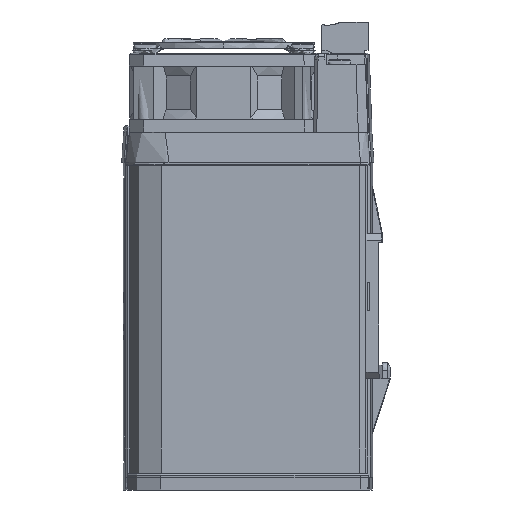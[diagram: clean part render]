
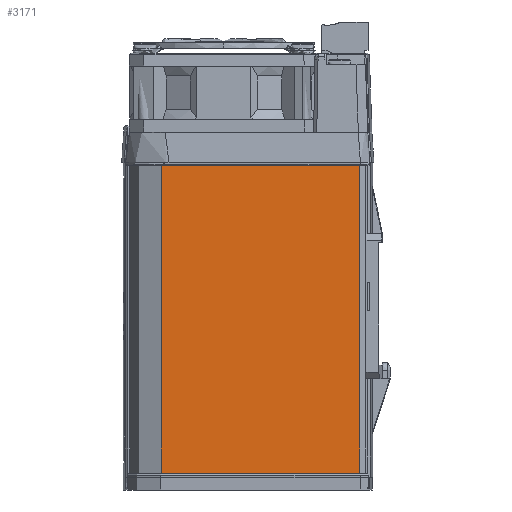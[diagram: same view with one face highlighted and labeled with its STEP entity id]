
A CAD part, left-side view. The second image highlights one B-rep face of the part: STEP entity #3171.
In plain terms, the highlighted planar face has unit normal (-1, 0, 0) as drawn and (0, 1, 0) by its records, which use the part's own axes.
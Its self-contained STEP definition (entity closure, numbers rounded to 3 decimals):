
#3171=ADVANCED_FACE('',(#4479),#22754,.T.);
#4479=FACE_OUTER_BOUND('',#5882,.T.);
#5882=EDGE_LOOP('',(#12867,#12868,#12869,#12870));
#12867=ORIENTED_EDGE('',*,*,#16366,.T.);
#12868=ORIENTED_EDGE('',*,*,#16372,.F.);
#12869=ORIENTED_EDGE('',*,*,#16364,.F.);
#12870=ORIENTED_EDGE('',*,*,#16370,.F.);
#16364=EDGE_CURVE('',#22147,#22148,#18695,.T.);
#16366=EDGE_CURVE('',#22151,#22150,#18697,.T.);
#16370=EDGE_CURVE('',#22151,#22147,#18700,.T.);
#16372=EDGE_CURVE('',#22148,#22150,#18701,.T.);
#18695=B_SPLINE_CURVE_WITH_KNOTS('',1,(#64227,#64228),.UNSPECIFIED.,.F.,
 .F.,(2,2),(0.,63.),.UNSPECIFIED.);
#18697=B_SPLINE_CURVE_WITH_KNOTS('',1,(#64231,#64232),.UNSPECIFIED.,.F.,
 .F.,(2,2),(-63.,0.),.UNSPECIFIED.);
#18700=B_SPLINE_CURVE_WITH_KNOTS('',1,(#64240,#64241),.UNSPECIFIED.,.F.,
 .F.,(2,2),(0.,100.),.UNSPECIFIED.);
#18701=B_SPLINE_CURVE_WITH_KNOTS('',1,(#64245,#64246),.UNSPECIFIED.,.F.,
 .F.,(2,2),(-100.,0.),.UNSPECIFIED.);
#22147=VERTEX_POINT('',#64209);
#22148=VERTEX_POINT('',#64210);
#22150=VERTEX_POINT('',#64212);
#22151=VERTEX_POINT('',#64213);
#22754=PLANE('',#24462);
#24462=AXIS2_PLACEMENT_3D('',#64200,#25523,$);
#25523=DIRECTION('',(0.,1.,0.));
#64200=CARTESIAN_POINT('',(-4.3,24.6,-10.));
#64209=CARTESIAN_POINT('',(65.,24.6,100.));
#64210=CARTESIAN_POINT('',(2.,24.6,100.));
#64212=CARTESIAN_POINT('',(2.,24.6,0.));
#64213=CARTESIAN_POINT('',(65.,24.6,0.));
#64227=CARTESIAN_POINT('',(65.,24.6,100.));
#64228=CARTESIAN_POINT('',(2.,24.6,100.));
#64231=CARTESIAN_POINT('',(65.,24.6,0.));
#64232=CARTESIAN_POINT('',(2.,24.6,0.));
#64240=CARTESIAN_POINT('',(65.,24.6,0.));
#64241=CARTESIAN_POINT('',(65.,24.6,100.));
#64245=CARTESIAN_POINT('',(2.,24.6,100.));
#64246=CARTESIAN_POINT('',(2.,24.6,0.));
